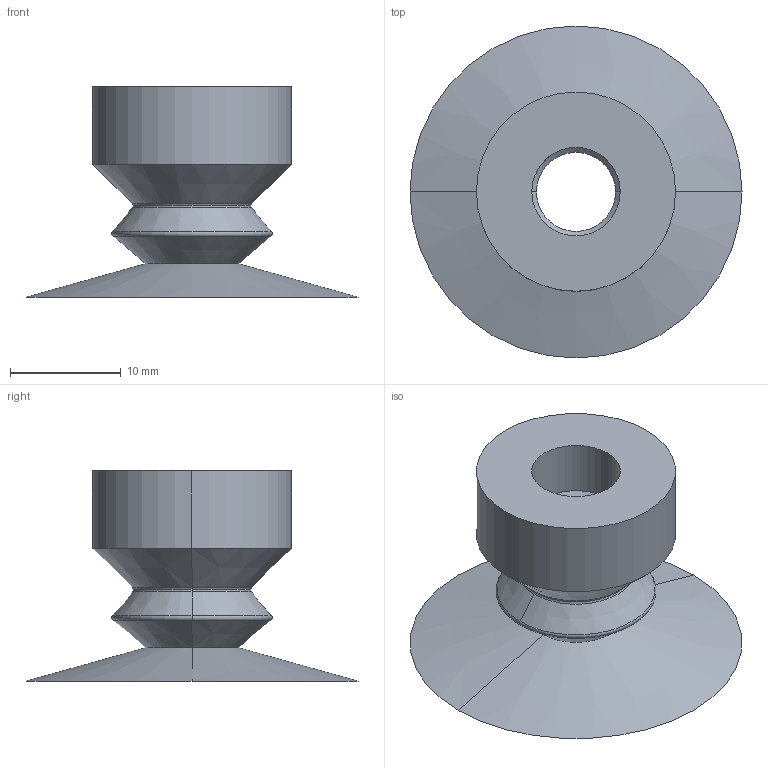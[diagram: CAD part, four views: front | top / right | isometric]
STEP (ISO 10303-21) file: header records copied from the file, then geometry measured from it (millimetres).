
FILE_DESCRIPTION (( 'STEP AP214' ), '1' );
FILE_NAME ('VSH2-M30.STEP', '2019-12-02T06:30:46', ( '微软用户' ), ( '微软中国' ), 'SwSTEP 2.0', 'SolidWorks 2016', '' );
FILE_SCHEMA (( 'AUTOMOTIVE_DESIGN' ));
Length unit declared in the file: millimetre
Products named in the file (1): VSH2-M30
Bounding box: 30 x 30 x 19 mm (x, y, z)
Volume: 1393.6 mm3; surface area: 3386.2 mm2
Topology: 1 solids, 1 shells, 35 faces, 70 edges, 38 vertices
Faces by surface type: cone 16, torus 10, cylinder 6, plane 3
Entity records: 942 total; most frequent: DIRECTION 190, CARTESIAN_POINT 144, ORIENTED_EDGE 140, AXIS2_PLACEMENT_3D 84, EDGE_CURVE 70, CIRCLE 48, EDGE_LOOP 38, VERTEX_POINT 38
